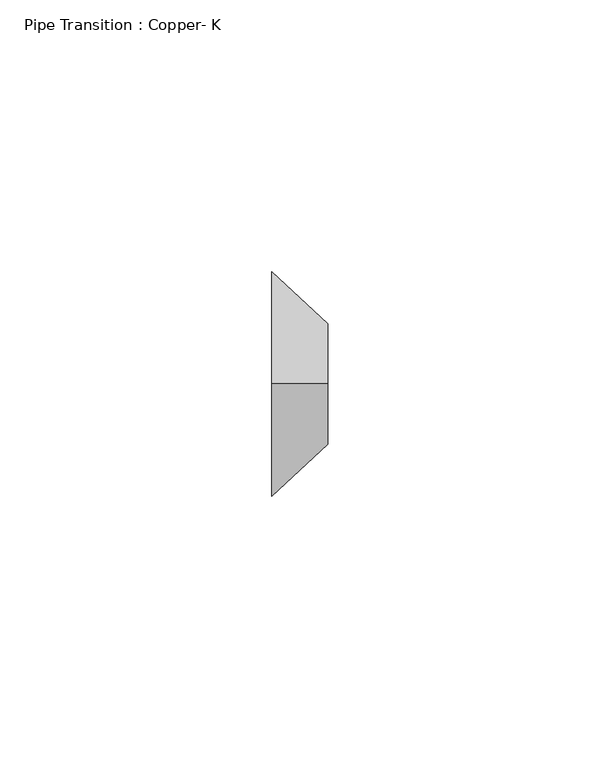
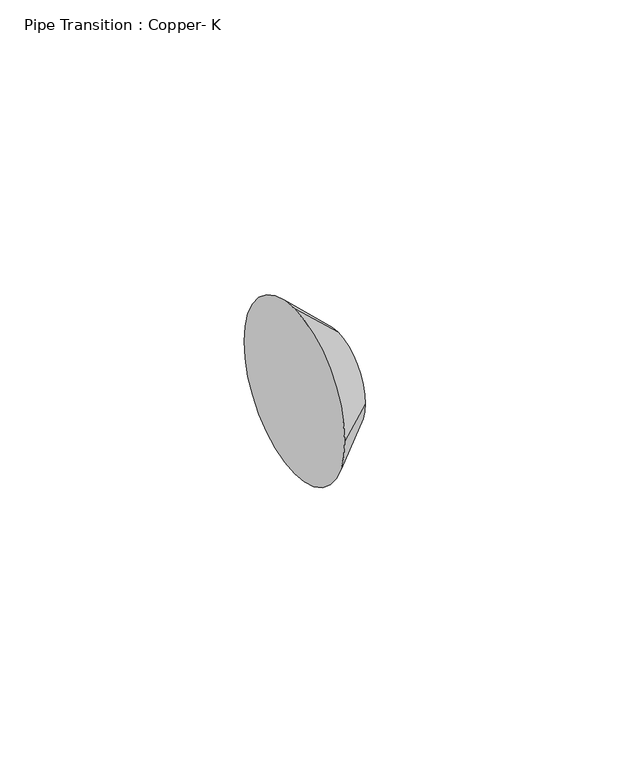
"""IFC4 building model written with IfcOpenShell, lengths in millimetres: pipe fitting geometry, Pipe Transition : Copper- K."""

from ifc_helpers import new_model, si_unit, frame, origin, place, context, project, spatial, polyline, circle_curve, source, transform, mapped, element, save
from ifc_brep_helpers import plane_surface, revolved_surface, advanced_brep


def pipe_transition_copper_k_d15df449(model_context):
    return source(origin(), model_context, "Body", "AdvancedBrep", [
        advanced_brep(
        [(10.31875, 0.0, 11.1125), (10.31875, -11.1125, 0.0), (10.31875, 0.0, -11.1125), (10.31875, 11.1125, 0.0), (0.0, 0.0, 20.6375), (0.0, 20.6375, 0.0), (0.0, 0.0, -20.6375), (0.0, -20.6375, 0.0)],
        [
            (0, 1, circle_curve(frame((10.31875, 0.0, 0.0), z_axis=(1.0, 0.0, 0.0), x_axis=(0.0, 0.0, 1.0)), 11.1125)),
            (1, 2, circle_curve(frame((10.31875, 0.0, 0.0), z_axis=(1.0, 0.0, 0.0), x_axis=(0.0, -1.0, 0.0)), 11.1125)),
            (2, 3, circle_curve(frame((10.31875, 0.0, 0.0), z_axis=(1.0, 0.0, 0.0), x_axis=(0.0, 0.0, -1.0)), 11.1125)),
            (3, 0, circle_curve(frame((10.31875, 0.0, 0.0), z_axis=(1.0, 0.0, 0.0), x_axis=(0.0, 1.0, 0.0)), 11.1125)),
            (4, 5, circle_curve(frame((0.0, 0.0, 0.0), z_axis=(-1.0, 0.0, 0.0), x_axis=(0.0, 1.0, 0.0)), 20.6375)),
            (5, 6, circle_curve(frame((0.0, 0.0, 0.0), z_axis=(-1.0, 0.0, 0.0), x_axis=(0.0, 0.0, -1.0)), 20.6375)),
            (6, 7, circle_curve(frame((0.0, 0.0, 0.0), z_axis=(-1.0, 0.0, 0.0), x_axis=(0.0, -1.0, 0.0)), 20.6375)),
            (7, 4, circle_curve(frame((0.0, 0.0, 0.0), z_axis=(-1.0, 0.0, 0.0), x_axis=(0.0, 0.0, 1.0)), 20.6375)),
            (7, 1),
            (0, 4),
            (6, 2),
            (5, 3),
        ],
        [
            plane_surface(frame((10.31875, 0.0, 0.0), z_axis=(1.0, 0.0, 0.0), x_axis=(0.0, -1.0, 0.0))),
            plane_surface(frame((0.0, 0.0, 0.0), z_axis=(-1.0, 0.0, 0.0), x_axis=(0.0, -1.0, 0.0))),
            revolved_surface(polyline([(10.31875, 0.0, 11.112500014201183), (0.0, 0.0, 20.6375)]), (22.3572917, 0.0, 0.0), (-1.0, 0.0, 0.0)),
            revolved_surface(polyline([(10.31875, -11.112500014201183, 0.0), (0.0, -20.6375, 0.0)]), (22.3572917, 0.0, 0.0), (-1.0, 0.0, 0.0)),
            revolved_surface(polyline([(10.31875, 0.0, -11.112500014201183), (0.0, 0.0, -20.6375)]), (22.3572917, 0.0, 0.0), (-1.0, 0.0, 0.0)),
            revolved_surface(polyline([(10.31875, 11.112500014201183, 0.0), (0.0, 20.6375, 0.0)]), (22.3572917, 0.0, 0.0), (-1.0, 0.0, 0.0)),
        ],
        [
            (0, [[1, 2, 3, 4]]),
            (1, [[5, 6, 7, 8]]),
            (2, [[-8, 9, -1, 10]]),
            (3, [[-7, 11, -2, -9]]),
            (4, [[-6, 12, -3, -11]]),
            (5, [[-5, -10, -4, -12]]),
        ],
    ),
        advanced_brep(
        [(10.31875, 0.0, 11.1125), (10.31875, -11.1125, 0.0), (10.31875, 0.0, -11.1125), (10.31875, 11.1125, 0.0), (0.0, 0.0, 20.6375), (0.0, 20.6375, 0.0), (0.0, 0.0, -20.6375), (0.0, -20.6375, 0.0)],
        [
            (0, 1, circle_curve(frame((10.31875, 0.0, 0.0), z_axis=(1.0, 0.0, 0.0), x_axis=(0.0, 0.0, 1.0)), 11.1125)),
            (1, 2, circle_curve(frame((10.31875, 0.0, 0.0), z_axis=(1.0, 0.0, 0.0), x_axis=(0.0, -1.0, 0.0)), 11.1125)),
            (2, 3, circle_curve(frame((10.31875, 0.0, 0.0), z_axis=(1.0, 0.0, -1.2689316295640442e-12), x_axis=(-1.2688635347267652e-12, 0.0, -1.0)), 11.1125)),
            (3, 0, circle_curve(frame((10.31875, 0.0, 0.0), z_axis=(1.0, 0.0, 0.0), x_axis=(0.0, 1.0, 0.0)), 11.1125)),
            (4, 5, circle_curve(frame((0.0, 0.0, 0.0), z_axis=(-1.0, 0.0, 0.0), x_axis=(0.0, 1.0, 0.0)), 20.6375)),
            (5, 6, circle_curve(frame((0.0, 0.0, 0.0), z_axis=(-1.0, 0.0, 1.2689316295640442e-12), x_axis=(-1.2688635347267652e-12, 0.0, -1.0)), 20.6375)),
            (6, 7, circle_curve(frame((0.0, 0.0, 0.0), z_axis=(-1.0, 0.0, 0.0), x_axis=(0.0, -1.0, 0.0)), 20.6375)),
            (7, 4, circle_curve(frame((0.0, 0.0, 0.0), z_axis=(-1.0, 0.0, 0.0), x_axis=(0.0, 0.0, 1.0)), 20.6375)),
            (7, 1),
            (0, 4),
            (6, 2),
            (5, 3),
        ],
        [
            plane_surface(frame((10.31875, 0.0, 0.0), z_axis=(1.0, 0.0, 0.0), x_axis=(0.0, -1.0, 0.0))),
            plane_surface(frame((0.0, 0.0, 0.0), z_axis=(-1.0, 0.0, 0.0), x_axis=(0.0, -1.0, 0.0))),
            revolved_surface(polyline([(10.31875, 0.0, 11.112500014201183), (0.0, 0.0, 20.6375)]), (22.3572917, 0.0, 0.0), (-1.0, 0.0, 0.0)),
            revolved_surface(polyline([(10.31875, -11.112500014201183, 0.0), (0.0, -20.6375, 0.0)]), (22.3572917, 0.0, 0.0), (-1.0, 0.0, 0.0)),
            revolved_surface(polyline([(10.31875, 0.0, -11.112500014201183), (-2.6187052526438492e-11, 0.0, -20.637500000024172)]), (22.3572917, 0.0, 0.0), (-1.0, 0.0, 1.2689316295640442e-12)),
            revolved_surface(polyline([(10.31875, 11.112500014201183, 0.0), (0.0, 20.6375, 0.0)]), (22.3572917, 0.0, 0.0), (-1.0, 0.0, 0.0)),
        ],
        [
            (0, [[1, 2, 3, 4]]),
            (1, [[5, 6, 7, 8]]),
            (2, [[-8, 9, -1, 10]]),
            (3, [[-7, 11, -2, -9]]),
            (4, [[-6, 12, -3, -11]]),
            (5, [[-5, -10, -4, -12]]),
        ],
    ),
    ])


if __name__ == "__main__":
    model = new_model("IFC4")
    model_context = context("Model", 3, world=origin())
    ifc_project = project(units=[si_unit("LENGTHUNIT", "METRE", prefix="MILLI")], contexts=[model_context])
    site = spatial("IfcSite", under=ifc_project)
    building = spatial("IfcBuilding", under=site)
    placement = place(None, origin())
    pipe_transition_copper_k_shape = pipe_transition_copper_k_d15df449(model_context)
    element("IfcPipeFitting", 1, ObjectType="Pipe Transition : Copper- K", at=placement, inside=building, context=model_context, shape_type="MappedRepresentation", body=[
        mapped(pipe_transition_copper_k_shape, transform((0.0, 0.0, 0.0), x_axis=(1.0, 0.0, 0.0), y_axis=(0.0, 1.0, 0.0), z_axis=(0.0, 0.0, 1.0))),
    ])
    save(model, "model.ifc")
